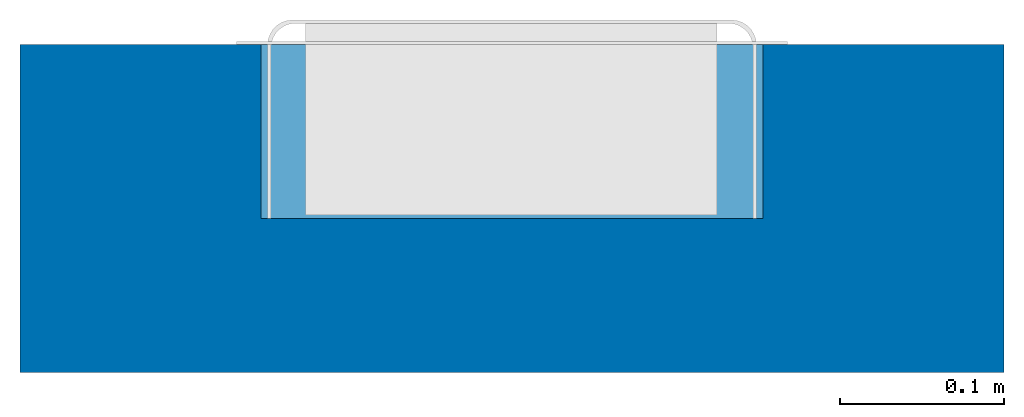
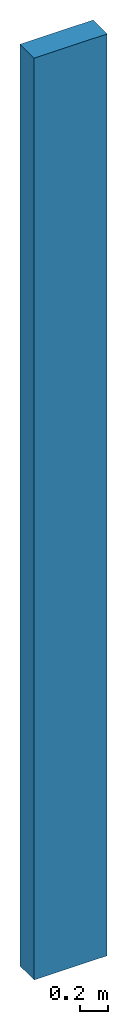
# One storey, part 1 of 2: 1 wall, 1 opening.
"""IFC2X3 building model written with IfcOpenShell, lengths in millimetres."""

from ifc_helpers import new_model, entity, si_unit, converted_unit, derived_unit, direction, frame, frame_2d, origin, place, context, subcontext, project, spatial, rectangle, extrude, material, layer, layer_set, layer_usage, type_object, element, save


model = new_model("IFC2X3")

# Units and contexts
model_context = context("Model", 3, precision=0.01, world=origin(), true_north=direction((6.12303176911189e-17, 1.0)))
context_of_model = context(None, 3, precision=0.01, world=origin(), true_north=direction((6.12303176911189e-17, 1.0)))
body_context = subcontext(model_context, "Body", "Model", "MODEL_VIEW")
ifc_project = project(units=[si_unit("LENGTHUNIT", "METRE", prefix="MILLI"), si_unit("AREAUNIT", "SQUARE_METRE"), si_unit("VOLUMEUNIT", "CUBIC_METRE"), converted_unit("PLANEANGLEUNIT", "DEGREE", entity("IfcRatioMeasure", 0.0174532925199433), si_unit("PLANEANGLEUNIT", "RADIAN"), dimensions=[0, 0, 0, 0, 0, 0, 0]), si_unit("MASSUNIT", "GRAM", prefix="KILO"), si_unit("TIMEUNIT", "SECOND"), si_unit("FREQUENCYUNIT", "HERTZ"), si_unit("THERMODYNAMICTEMPERATUREUNIT", "DEGREE_CELSIUS"), derived_unit("THERMALTRANSMITTANCEUNIT", [(si_unit("MASSUNIT", "GRAM", prefix="KILO"), 1), (si_unit("THERMODYNAMICTEMPERATUREUNIT", "KELVIN"), -1), (si_unit("TIMEUNIT", "SECOND"), -3)]), derived_unit("VOLUMETRICFLOWRATEUNIT", [(si_unit("LENGTHUNIT", "METRE"), 3), (si_unit("TIMEUNIT", "SECOND"), -1)]), si_unit("ELECTRICCURRENTUNIT", "AMPERE"), si_unit("ELECTRICVOLTAGEUNIT", "VOLT"), si_unit("POWERUNIT", "WATT"), si_unit("FORCEUNIT", "NEWTON", prefix="KILO"), si_unit("ILLUMINANCEUNIT", "LUX"), si_unit("LUMINOUSFLUXUNIT", "LUMEN"), si_unit("LUMINOUSINTENSITYUNIT", "CANDELA"), si_unit("PRESSUREUNIT", "PASCAL")], contexts=[model_context, context_of_model])

# Site, building, storey
site_placement = place(None, origin())
site = spatial("IfcSite", under=ifc_project, at=site_placement, Name="Default", CompositionType="ELEMENT")
building_placement = place(site_placement, origin())
building = spatial("IfcBuilding", under=site, at=building_placement, CompositionType="ELEMENT")
storey_placement = place(building_placement, origin())
storey = spatial("IfcBuildingStorey", under=building, at=storey_placement, Name="Level 1", CompositionType="ELEMENT", Elevation=0.0)

# Wall, opening
ifc_material = material(Name="Default Wall")
ifc_layer = layer(ifc_material, 200.0)
ifc_layer_set = layer_set([ifc_layer], Name="Basic Wall:Generic - 200mm")
ifc_layer_usage = layer_usage(ifc_layer_set, "AXIS2", "NEGATIVE", 100.0)
wall_type = type_object("IfcWallType", Name="Basic Wall:Generic - 200mm", PredefinedType="STANDARD", material=ifc_layer_set)
wall_placement = place(storey_placement, frame((-83.7020104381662, -355.555556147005, 0.0)))
wall = element("IfcWallStandardCase", 1, at=wall_placement, inside=storey, type_object=wall_type, material=ifc_layer_usage, Name="Basic Wall:Generic - 200mm", ObjectType="Basic Wall:Generic - 200mm:249", context=body_context, shape_type="SweptSolid", body=[
    extrude(rectangle(XDim=600.0, YDim=200.0, at=frame_2d((300.0, 1.4210854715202e-14), x_axis=(-1.0, 0.0))), origin(), (0.0, 0.0, 1.0), 8000.0),
])
opening_placement = place(wall_placement, frame((147.0, -6.0, 1000.0)))
element("IfcOpeningElement", 2, at=opening_placement, cuts=wall, Name="Basic Wall:Generic - 200mm", ObjectType="Recess", context=body_context, shape_type="SweptSolid", body=[
    extrude(rectangle(XDim=492.0, YDim=306.000000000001, at=frame_2d((0.0, 5.6843418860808e-14), x_axis=(0.0, 1.0))), frame((153.0, 0.0, 246.0), z_axis=(0.0, 1.0, 0.0), x_axis=(-1.0, 0.0, 0.0)), (0.0, 0.0, 1.0), 106.0),
])

save(model, "model.ifc")
